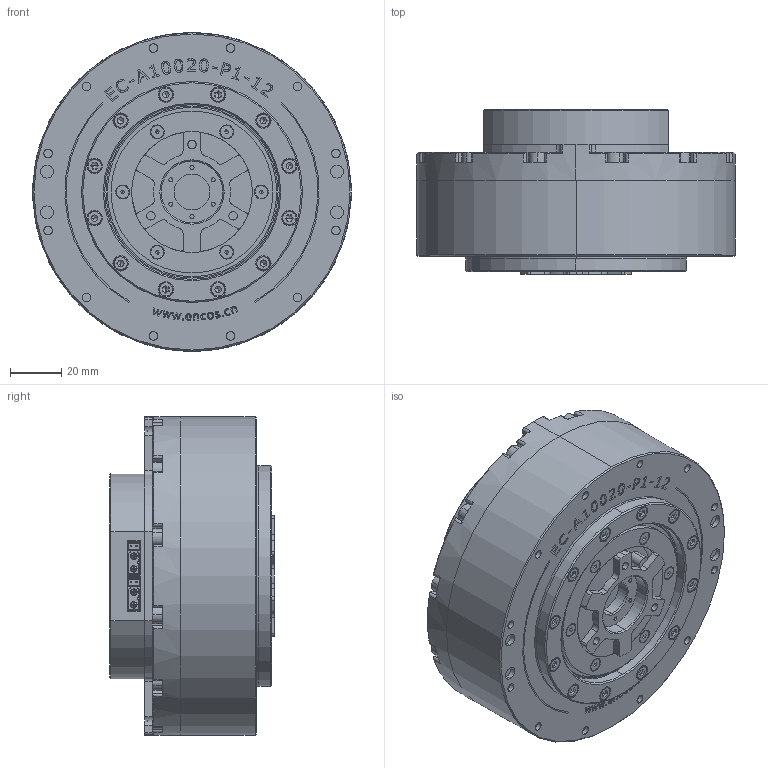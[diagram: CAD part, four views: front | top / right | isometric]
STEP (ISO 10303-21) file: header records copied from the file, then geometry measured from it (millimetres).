
FILE_DESCRIPTION (( 'STEP AP214' ), '1' );
FILE_NAME ('EC-A10020-P.STEP', '2023-05-30T03:56:39', ( '' ), ( '' ), 'SwSTEP 2.0', 'SolidWorks 2019', '' );
FILE_SCHEMA (( 'AUTOMOTIVE_DESIGN' ));
Length unit declared in the file: millimetre
Products named in the file (17): XT30PW 2+2-M 3D DRAWING; RAU6005; THU-A10020-12-驱动盖; EC-A10020-12-萇儂綴裔-諦誧; EC-A10020-12-怀堤楊擘-諦誧; 10020萇儂傷毀嚏棠沺; EC-A10020-12-输出端轴承盖-客户; ԲͷM4x16_GB_FASTENER_SCREWS_HSHCS M4X16-N; micro_usb; EC-A10020-12-隅赽釱俋褲-諦誧; 粣創25x32x4; ԲͷM2.5x16_GB_FASTENER_SCREWS_HSHCS M2.5X16-N; THU-A10020-12-怀堤傷粣創裔B; 麥芛M2.5x6_GB_FASTENER_SCREWS_HSCHS M3X8-N; ԲͷM3X8_GB_FASTENER_SCREWS_HSHCS M3X8-N; EC-A10020-P; THU-A10020-12-萇埭啣
Assembly tree (49 placements, depth 2):
  EC-A10020-P
    EC-A10020-12-隅赽釱俋褲-諦誧
    EC-A10020-12-输出端轴承盖-客户
    EC-A10020-12-怀堤楊擘-諦誧
    RAU6005
    THU-A10020-12-怀堤傷粣創裔B
    EC-A10020-12-萇儂綴裔-諦誧
    粣創25x32x4
    10020萇儂傷毀嚏棠沺
    ԲͷM3X8_GB_FASTENER_SCREWS_HSHCS M3X8-N  x12
    麥芛M2.5x6_GB_FASTENER_SCREWS_HSCHS M3X8-N  x6
    ԲͷM4x16_GB_FASTENER_SCREWS_HSHCS M4X16-N  x12
    THU-A10020-12-驱动盖
    THU-A10020-12-萇埭啣
    micro_usb
    XT30PW 2+2-M 3D DRAWING  x4
    ԲͷM2.5x16_GB_FASTENER_SCREWS_HSHCS M2.5X16-N  x4
Bounding box: 124 x 64.1 x 124 mm (x, y, z)
Volume: 458922.2 mm3; surface area: 147038.3 mm2
Topology: 49 solids, 66 shells, 5018 faces, 13276 edges, 8667 vertices
Faces by surface type: plane 2954, cylinder 1344, bspline 331, cone 305, torus 84
Entity records: 113779 total; most frequent: CARTESIAN_POINT 31892, ORIENTED_EDGE 14666, DIRECTION 13789, EDGE_CURVE 7333, VERTEX_POINT 4854, AXIS2_PLACEMENT_3D 4740, LINE 4309, VECTOR 4309
